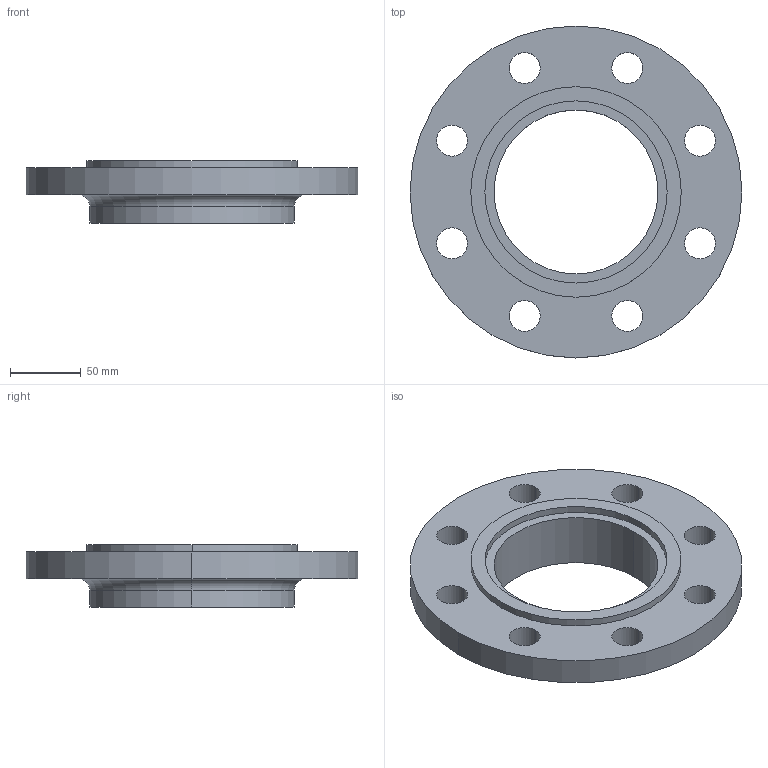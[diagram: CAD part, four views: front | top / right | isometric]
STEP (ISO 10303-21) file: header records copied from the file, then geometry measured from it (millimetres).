
FILE_DESCRIPTION (( 'STEP AP214' ), '1' );
FILE_NAME ('PN40 DN100 Type 12 - Type C Face.STEP', '2019-01-02T00:21:32', ( '' ), ( '' ), 'SwSTEP 2.0', 'SolidWorks 2019', '' );
FILE_SCHEMA (( 'AUTOMOTIVE_DESIGN' ));
Length unit declared in the file: millimetre
Products named in the file (1): PN40 DN100 Type 12 - Type C Face
Bounding box: 235 x 235 x 44 mm (x, y, z)
Volume: 712658.8 mm3; surface area: 110215.5 mm2
Topology: 1 solids, 1 shells, 33 faces, 82 edges, 54 vertices
Faces by surface type: cylinder 26, plane 5, torus 2
Entity records: 1086 total; most frequent: DIRECTION 206, CARTESIAN_POINT 170, ORIENTED_EDGE 164, AXIS2_PLACEMENT_3D 90, EDGE_CURVE 82, CIRCLE 56, EDGE_LOOP 54, VERTEX_POINT 54
